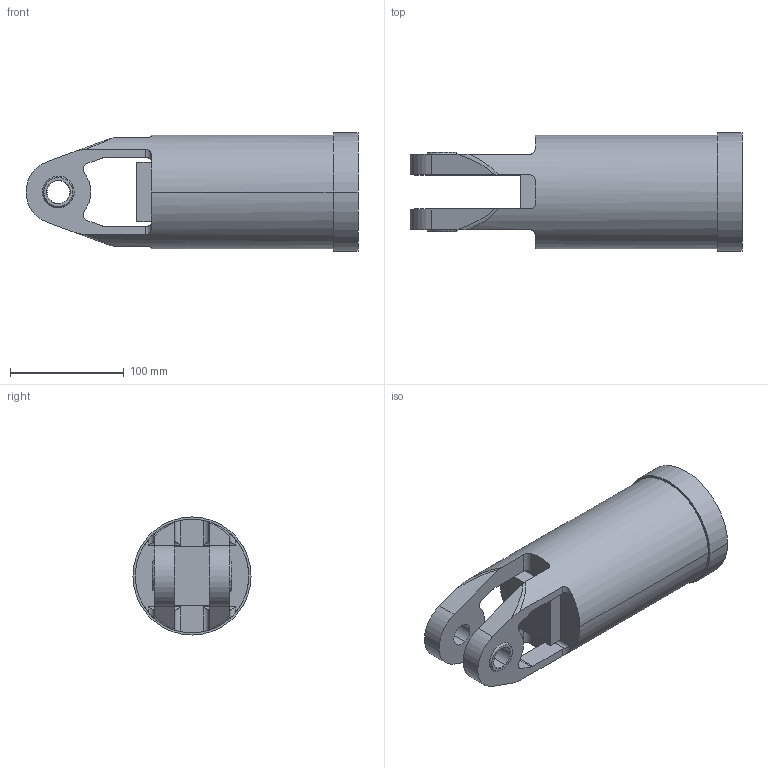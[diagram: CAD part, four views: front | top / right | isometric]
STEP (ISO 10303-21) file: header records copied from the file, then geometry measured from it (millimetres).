
FILE_DESCRIPTION (( 'STEP AP203' ), '1' );
FILE_NAME ('zuodongtong.STEP', '2023-04-06T07:06:20', ( '' ), ( '' ), 'SwSTEP 2.0', 'SolidWorks 2016', '' );
FILE_SCHEMA (( 'CONFIG_CONTROL_DESIGN' ));
Length unit declared in the file: millimetre
Products named in the file (1): zuodongtong
Bounding box: 292.5 x 104 x 104 mm (x, y, z)
Volume: 1635822.3 mm3; surface area: 111372.4 mm2
Topology: 1 solids, 1 shells, 72 faces, 208 edges, 138 vertices
Faces by surface type: cylinder 34, plane 26, cone 4, sphere 4, bspline 4
Entity records: 2895 total; most frequent: CARTESIAN_POINT 921, ORIENTED_EDGE 416, DIRECTION 384, EDGE_CURVE 208, AXIS2_PLACEMENT_3D 141, VERTEX_POINT 138, LINE 102, VECTOR 102
